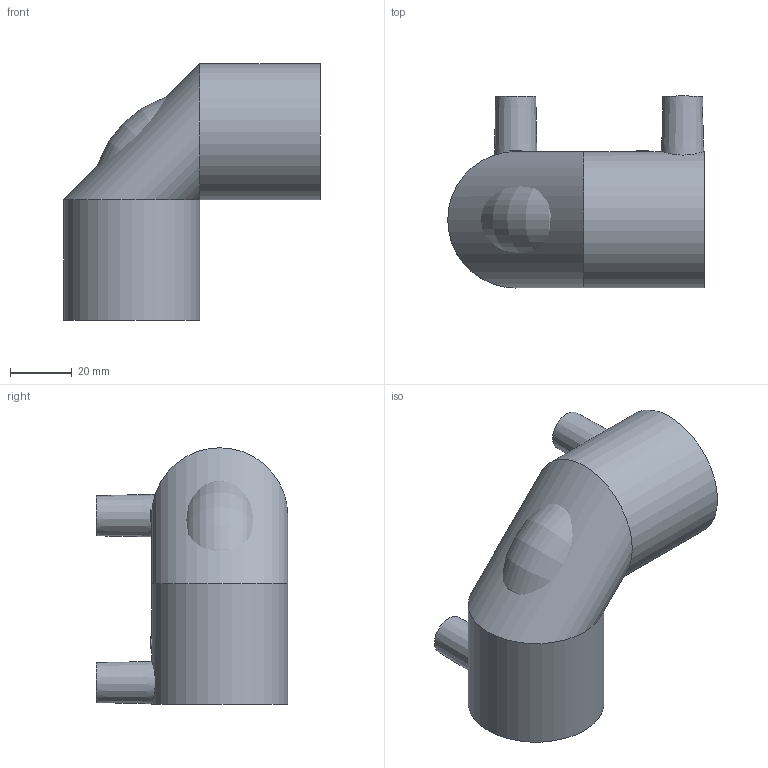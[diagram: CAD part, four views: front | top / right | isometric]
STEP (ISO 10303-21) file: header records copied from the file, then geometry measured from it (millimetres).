
FILE_DESCRIPTION(/* description */ ('Unknown'),/* implementation_level */ '2;1');
FILE_NAME(/* name */ 'GE9P032C',/* time_stamp */ '2021-02-11T12:51:22+01:00',/* author */ ('Unknown'),/* organization */ ('Unknown'),/* preprocessor_version */ 'ST-DEVELOPER v16.7',/* originating_system */ 'Solid Edge',/* authorisation */ 'Unknown');
FILE_SCHEMA (('AUTOMOTIVE_DESIGN {1 0 10303 214 3 1 1}'));
Length unit declared in the file: millimetre
Products named in the file (1): GE9P032C
Bounding box: 83 x 62 x 83 mm (x, y, z)
Volume: 92883.5 mm3; surface area: 31245.2 mm2
Topology: 1 solids, 1 shells, 28 faces, 49 edges, 31 vertices
Faces by surface type: cylinder 12, plane 12, torus 2, cone 2
Full cylindrical faces by diameter (mm): 4 x4, 10 x2, 32 x2, 44 x2
Entity records: 694 total; most frequent: CARTESIAN_POINT 183, DIRECTION 104, ORIENTED_EDGE 66, EDGE_LOOP 52, FACE_BOUND 52, AXIS2_PLACEMENT_3D 52, EDGE_CURVE 33, VERTEX_POINT 29
